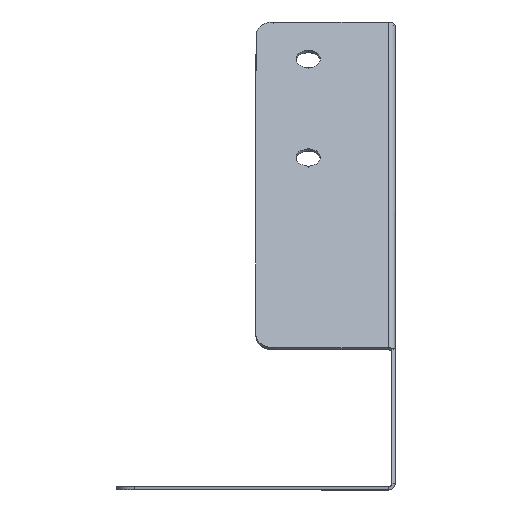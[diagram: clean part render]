
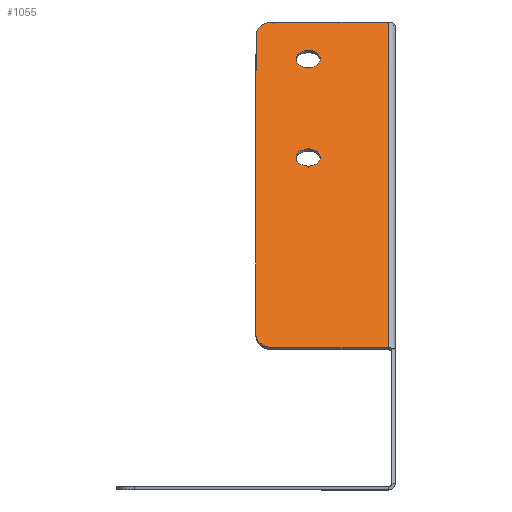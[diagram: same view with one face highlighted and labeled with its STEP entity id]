
A CAD part, left-side view. The second image highlights one B-rep face of the part: STEP entity #1055.
In plain terms, the highlighted planar face has unit normal (-0.707, 0, 0.707).
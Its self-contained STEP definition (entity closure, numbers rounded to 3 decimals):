
#4 = LINE ( 'NONE', #1462, #313 ) ;
#56 = CARTESIAN_POINT ( 'NONE',  ( -17.678, -38., 133.322 ) ) ;
#78 = DIRECTION ( 'NONE',  ( 0.707, 0., 0.707 ) ) ;
#85 = DIRECTION ( 'NONE',  ( 0.707, 0., 0.707 ) ) ;
#93 = DIRECTION ( 'NONE',  ( -0.707, 0., 0.707 ) ) ;
#116 = ORIENTED_EDGE ( 'NONE', *, *, #699, .T. ) ;
#117 = AXIS2_PLACEMENT_3D ( 'NONE', #401, #1128, #85 ) ;
#137 = PLANE ( 'NONE',  #1551 ) ;
#140 = DIRECTION ( 'NONE',  ( 0.707, 0., 0.707 ) ) ;
#164 = VERTEX_POINT ( 'NONE', #2072 ) ;
#212 = CIRCLE ( 'NONE', #1710, 3.5 ) ;
#213 = EDGE_CURVE ( 'NONE', #164, #1346, #499, .T. ) ;
#260 = VECTOR ( 'NONE', #140, 1000. ) ;
#313 = VECTOR ( 'NONE', #1280, 1000. ) ;
#322 = EDGE_CURVE ( 'NONE', #653, #1957, #2284, .T. ) ;
#340 = EDGE_CURVE ( 'NONE', #164, #388, #2210, .T. ) ;
#376 = CIRCLE ( 'NONE', #943, 3.5 ) ;
#388 = VERTEX_POINT ( 'NONE', #56 ) ;
#401 = CARTESIAN_POINT ( 'NONE',  ( -21.213, -5., 129.787 ) ) ;
#421 = CARTESIAN_POINT ( 'NONE',  ( -17.678, -39., 133.322 ) ) ;
#473 = EDGE_CURVE ( 'NONE', #2339, #2322, #212, .T. ) ;
#495 = AXIS2_PLACEMENT_3D ( 'NONE', #1345, #2247, #594 ) ;
#499 = CIRCLE ( 'NONE', #117, 5. ) ;
#515 = CARTESIAN_POINT ( 'NONE',  ( -111.109, 0., 39.891 ) ) ;
#527 = CARTESIAN_POINT ( 'NONE',  ( -59.043, -15., 91.957 ) ) ;
#581 = EDGE_LOOP ( 'NONE', ( #2348, #2285 ) ) ;
#594 = DIRECTION ( 'NONE',  ( 0.707, 0., 0.707 ) ) ;
#603 = EDGE_CURVE ( 'NONE', #642, #1995, #1946, .T. ) ;
#642 = VERTEX_POINT ( 'NONE', #1837 ) ;
#653 = VERTEX_POINT ( 'NONE', #1096 ) ;
#691 = DIRECTION ( 'NONE',  ( 0., 1., 0. ) ) ;
#699 = EDGE_CURVE ( 'NONE', #2266, #388, #889, .T. ) ;
#714 = CIRCLE ( 'NONE', #495, 3.5 ) ;
#813 = VECTOR ( 'NONE', #691, 1000. ) ;
#834 = CARTESIAN_POINT ( 'NONE',  ( -56.569, -15., 94.431 ) ) ;
#863 = ORIENTED_EDGE ( 'NONE', *, *, #1054, .F. ) ;
#889 = LINE ( 'NONE', #2363, #260 ) ;
#943 = AXIS2_PLACEMENT_3D ( 'NONE', #1583, #1210, #78 ) ;
#1054 = EDGE_CURVE ( 'NONE', #2266, #1957, #1594, .T. ) ;
#1055 = ADVANCED_FACE ( 'NONE', ( #2326, #1776, #2370 ), #137, .T. ) ;
#1084 = DIRECTION ( 'NONE',  ( -0.707, 0., 0.707 ) ) ;
#1096 = CARTESIAN_POINT ( 'NONE',  ( -107.574, 0., 43.426 ) ) ;
#1127 = VECTOR ( 'NONE', #2031, 1000. ) ;
#1128 = DIRECTION ( 'NONE',  ( -0.707, 0., 0.707 ) ) ;
#1170 = CARTESIAN_POINT ( 'NONE',  ( -21.213, 0., 129.787 ) ) ;
#1173 = CARTESIAN_POINT ( 'NONE',  ( -111.109, -38., 39.891 ) ) ;
#1210 = DIRECTION ( 'NONE',  ( -0.707, 0., 0.707 ) ) ;
#1212 = AXIS2_PLACEMENT_3D ( 'NONE', #1438, #1084, #2349 ) ;
#1244 = CARTESIAN_POINT ( 'NONE',  ( -54.094, -15., 96.906 ) ) ;
#1254 = ORIENTED_EDGE ( 'NONE', *, *, #603, .F. ) ;
#1280 = DIRECTION ( 'NONE',  ( 0.707, 0., 0.707 ) ) ;
#1345 = CARTESIAN_POINT ( 'NONE',  ( -28.284, -15., 122.716 ) ) ;
#1346 = VERTEX_POINT ( 'NONE', #1170 ) ;
#1397 = AXIS2_PLACEMENT_3D ( 'NONE', #1683, #2068, #1722 ) ;
#1433 = ORIENTED_EDGE ( 'NONE', *, *, #1653, .F. ) ;
#1438 = CARTESIAN_POINT ( 'NONE',  ( -28.284, -15., 122.716 ) ) ;
#1458 = DIRECTION ( 'NONE',  ( 0.707, 0., 0.707 ) ) ;
#1462 = CARTESIAN_POINT ( 'NONE',  ( -17.678, 0., 133.322 ) ) ;
#1496 = EDGE_LOOP ( 'NONE', ( #1254, #1433 ) ) ;
#1551 = AXIS2_PLACEMENT_3D ( 'NONE', #1978, #1808, #1458 ) ;
#1583 = CARTESIAN_POINT ( 'NONE',  ( -56.569, -15., 94.431 ) ) ;
#1594 = LINE ( 'NONE', #515, #813 ) ;
#1620 = CARTESIAN_POINT ( 'NONE',  ( -111.109, -5., 39.891 ) ) ;
#1653 = EDGE_CURVE ( 'NONE', #1995, #642, #714, .T. ) ;
#1683 = CARTESIAN_POINT ( 'NONE',  ( -107.574, -5., 43.426 ) ) ;
#1710 = AXIS2_PLACEMENT_3D ( 'NONE', #834, #93, #2295 ) ;
#1722 = DIRECTION ( 'NONE',  ( 0.707, 0., 0.707 ) ) ;
#1776 = FACE_BOUND ( 'NONE', #1496, .T. ) ;
#1793 = ORIENTED_EDGE ( 'NONE', *, *, #1989, .F. ) ;
#1808 = DIRECTION ( 'NONE',  ( -0.707, 0., 0.707 ) ) ;
#1837 = CARTESIAN_POINT ( 'NONE',  ( -25.809, -15., 125.191 ) ) ;
#1838 = CARTESIAN_POINT ( 'NONE',  ( -30.759, -15., 120.241 ) ) ;
#1887 = EDGE_LOOP ( 'NONE', ( #2261, #2052, #1793, #2200, #863, #116 ) ) ;
#1946 = CIRCLE ( 'NONE', #1212, 3.5 ) ;
#1957 = VERTEX_POINT ( 'NONE', #1620 ) ;
#1978 = CARTESIAN_POINT ( 'NONE',  ( -75.5, 0., 75.5 ) ) ;
#1989 = EDGE_CURVE ( 'NONE', #653, #1346, #4, .T. ) ;
#1995 = VERTEX_POINT ( 'NONE', #1838 ) ;
#2031 = DIRECTION ( 'NONE',  ( 0., -1., 0. ) ) ;
#2052 = ORIENTED_EDGE ( 'NONE', *, *, #213, .T. ) ;
#2068 = DIRECTION ( 'NONE',  ( -0.707, 0., 0.707 ) ) ;
#2072 = CARTESIAN_POINT ( 'NONE',  ( -17.678, -5., 133.322 ) ) ;
#2194 = EDGE_CURVE ( 'NONE', #2322, #2339, #376, .T. ) ;
#2200 = ORIENTED_EDGE ( 'NONE', *, *, #322, .T. ) ;
#2210 = LINE ( 'NONE', #421, #1127 ) ;
#2247 = DIRECTION ( 'NONE',  ( -0.707, 0., 0.707 ) ) ;
#2261 = ORIENTED_EDGE ( 'NONE', *, *, #340, .F. ) ;
#2266 = VERTEX_POINT ( 'NONE', #1173 ) ;
#2284 = CIRCLE ( 'NONE', #1397, 5. ) ;
#2285 = ORIENTED_EDGE ( 'NONE', *, *, #473, .F. ) ;
#2295 = DIRECTION ( 'NONE',  ( 0.707, 0., 0.707 ) ) ;
#2322 = VERTEX_POINT ( 'NONE', #1244 ) ;
#2326 = FACE_BOUND ( 'NONE', #581, .T. ) ;
#2339 = VERTEX_POINT ( 'NONE', #527 ) ;
#2348 = ORIENTED_EDGE ( 'NONE', *, *, #2194, .F. ) ;
#2349 = DIRECTION ( 'NONE',  ( 0.707, 0., 0.707 ) ) ;
#2363 = CARTESIAN_POINT ( 'NONE',  ( -75.5, -38., 75.5 ) ) ;
#2370 = FACE_OUTER_BOUND ( 'NONE', #1887, .T. ) ;
